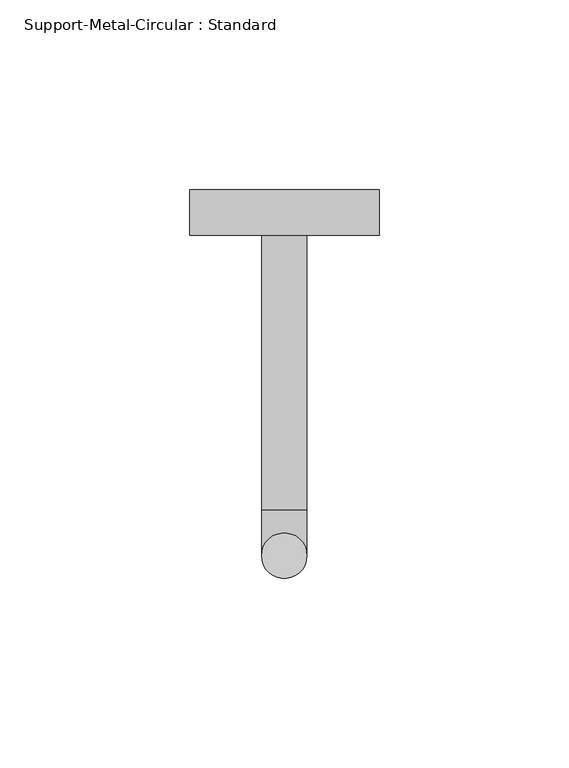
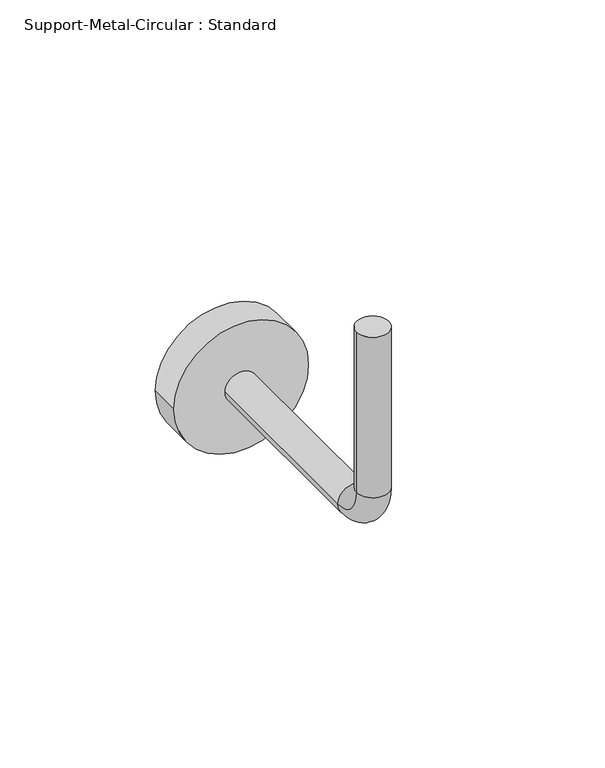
"""IFC4 building model written with IfcOpenShell, lengths in millimetres: proxy geometry, Support-Metal-Circular : Standard."""

from ifc_helpers import new_model, si_unit, point, frame, frame_2d, origin, origin_with_axes, place, context, project, spatial, circle_curve, ellipse_curve, trimmed, segment, composite_curve, outline, extrude, source, transform, mapped, element, save
from ifc_brep_helpers import plane_surface, cylinder_surface, revolved_surface, advanced_brep


def support_metal_circular_standard_1419a276(model_context):
    return source(origin(), model_context, "Body", "SolidModel", [
        advanced_brep(
        [(-6.0, 0.0, 0.0), (6.0, 0.0, 0.0), (-6.0, 0.0, -63.0), (6.0, 0.0, -63.0), (6.0, 12.0, -75.0), (-6.0, 12.0, -75.0), (-6.0, 84.6196019, -75.0), (6.0, 84.6196019, -75.0)],
        [
            (0, 1, circle_curve(origin_with_axes(), 6.0)),
            (1, 0, circle_curve(origin_with_axes(), 6.0)),
            (0, 2),
            (2, 3, circle_curve(frame((0.0, 0.0, -63.0), z_axis=(0.0, 0.0, 1.0), x_axis=(1.0, 0.0, 0.0)), 6.0)),
            (3, 1),
            (3, 2, circle_curve(frame((0.0, 0.0, -63.0), z_axis=(0.0, 0.0, 1.0), x_axis=(1.0, 0.0, 0.0)), 6.0)),
            (4, 3, circle_curve(frame((6.0, 12.0, -63.0), z_axis=(-1.0, 0.0, 0.0), x_axis=(0.0, -1.0, 0.0)), 12.0)),
            (2, 5, circle_curve(frame((-6.0, 12.0, -63.0), z_axis=(1.0, 0.0, 0.0), x_axis=(0.0, -1.0, 0.0)), 12.0)),
            (5, 4, circle_curve(frame((0.0, 12.0, -75.0), z_axis=(0.0, -1.0, 0.0), x_axis=(1.0, 0.0, 0.0)), 6.0)),
            (4, 5, circle_curve(frame((0.0, 12.0, -75.0), z_axis=(0.0, -1.0, 0.0), x_axis=(1.0, 0.0, 0.0)), 6.0)),
            (6, 7, circle_curve(frame((0.0, 84.6196019, -75.0), z_axis=(0.0, 1.0, 0.0), x_axis=(1.0, 0.0, 0.0)), 6.0)),
            (7, 6, circle_curve(frame((0.0, 84.6196019, -75.0), z_axis=(0.0, 1.0, 0.0), x_axis=(1.0, 0.0, 0.0)), 6.0)),
            (5, 6),
            (7, 4),
        ],
        [
            plane_surface(origin_with_axes()),
            cylinder_surface(origin_with_axes(), 6.0),
            revolved_surface(trimmed(ellipse_curve(frame((0.0, 0.0, -63.0), z_axis=(0.0, 0.0, 1.0), x_axis=(1.0, 0.0, 0.0)), 6.0, 6.0), [point((-6.0, 0.0, -63.0))], [point((6.0, 0.0, -63.0))], True, "CARTESIAN"), (0.0, 12.0, -63.0), (1.0, 0.0, 0.0)),
            revolved_surface(trimmed(ellipse_curve(frame((0.0, 0.0, -63.0), z_axis=(0.0, 0.0, 1.0), x_axis=(1.0, 0.0, 0.0)), 6.0, 6.0), [point((6.0, 0.0, -63.0))], [point((-6.0, 0.0, -63.0))], True, "CARTESIAN"), (0.0, 12.0, -63.0), (1.0, 0.0, 0.0)),
            plane_surface(frame((0.0, 84.6196019, -75.0), z_axis=(0.0, 1.0, 0.0), x_axis=(1.0, 0.0, 0.0))),
            cylinder_surface(frame((0.0, 12.0, -75.0), z_axis=(0.0, -1.0, 0.0), x_axis=(1.0, 0.0, 0.0)), 6.0),
        ],
        [
            (0, [[1, 2]]),
            (1, [[-1, 3, 4, 5]]),
            (1, [[-2, -5, 6, -3]]),
            (2, [[7, -4, 8, 9]]),
            (3, [[-8, -6, -7, 10]]),
            (4, [[11, 12]]),
            (5, [[-9, 13, -12, 14]]),
            (5, [[-10, -14, -11, -13]]),
        ],
    ),
        extrude(outline(composite_curve([segment(trimmed(circle_curve(frame_2d((-75.0, 0.0)), 25.0), [point((-75.0, -25.0))], [point((-75.0, 25.0))], False, "CARTESIAN"), True, "CONTINUOUS"), segment(trimmed(circle_curve(frame_2d((-75.0, 0.0)), 25.0), [point((-75.0, 25.0))], [point((-75.0, -25.0))], False, "CARTESIAN"), True, "CONTINUOUS")], self_intersect=False)), frame((0.0, 84.6196019, 0.0), z_axis=(0.0, 1.0, 0.0), x_axis=(0.0, 0.0, 1.0)), (0.0, 0.0, 1.0), 12.0),
    ])


if __name__ == "__main__":
    model = new_model("IFC4")
    model_context = context("Model", 3, world=origin())
    ifc_project = project(units=[si_unit("LENGTHUNIT", "METRE", prefix="MILLI")], contexts=[model_context])
    site = spatial("IfcSite", under=ifc_project)
    building = spatial("IfcBuilding", under=site)
    placement = place(None, origin())
    support_metal_circular_standard_shape = support_metal_circular_standard_1419a276(model_context)
    element("IfcBuildingElementProxy", 1, Name="Support-Metal-Circular : Standard", ObjectType="Support-Metal-Circular : Standard", at=placement, inside=building, context=model_context, shape_type="MappedRepresentation", body=[
        mapped(support_metal_circular_standard_shape, transform((0.0, 0.0, 0.0), x_axis=(1.0, 0.0, 0.0), y_axis=(0.0, 1.0, 0.0), z_axis=(0.0, 0.0, 1.0))),
    ])
    save(model, "model.ifc")
